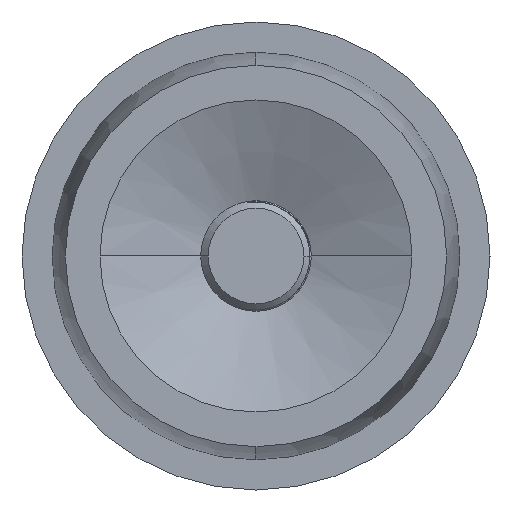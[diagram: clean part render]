
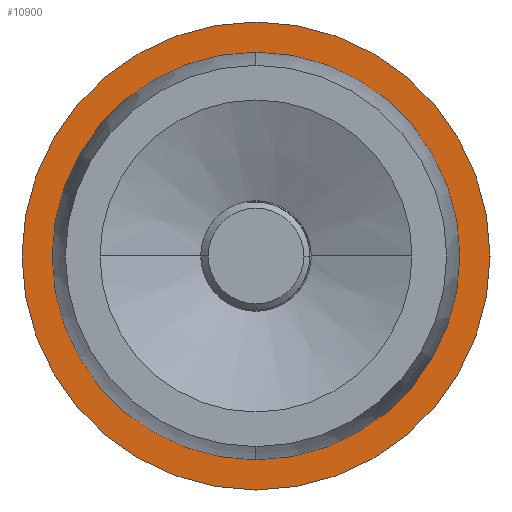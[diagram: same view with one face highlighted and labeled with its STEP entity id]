
A CAD part, left-side view. The second image highlights one B-rep face of the part: STEP entity #10900.
In plain terms, the highlighted planar face has unit normal (-1, 0, 0).
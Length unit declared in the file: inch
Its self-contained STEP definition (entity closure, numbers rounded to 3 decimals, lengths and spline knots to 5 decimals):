
#713 = CARTESIAN_POINT ( 'NONE',  ( 1.03029, 1.92417, 2.37021 ) ) ;
#794 = CIRCLE ( 'NONE', #9520, 0.49 ) ;
#871 = ORIENTED_EDGE ( 'NONE', *, *, #3297, .T. ) ;
#1087 = DIRECTION ( 'NONE',  ( -1., 0., 0. ) ) ;
#1432 = ORIENTED_EDGE ( 'NONE', *, *, #2862, .F. ) ;
#2035 = DIRECTION ( 'NONE',  ( 0., 0., 1. ) ) ;
#2439 = VERTEX_POINT ( 'NONE', #3125 ) ;
#2576 = CARTESIAN_POINT ( 'NONE',  ( 1.03029, 1.92417, 2.93271 ) ) ;
#2615 = VERTEX_POINT ( 'NONE', #2576 ) ;
#2862 = EDGE_CURVE ( 'NONE', #10783, #12720, #794, .T. ) ;
#3125 = CARTESIAN_POINT ( 'NONE',  ( 1.03029, 1.92417, 1.80771 ) ) ;
#3297 = EDGE_CURVE ( 'NONE', #2615, #2439, #14814, .T. ) ;
#4241 = DIRECTION ( 'NONE',  ( -1., 0., 0. ) ) ;
#4370 = AXIS2_PLACEMENT_3D ( 'NONE', #11975, #4241, #13307 ) ;
#4401 = DIRECTION ( 'NONE',  ( -1., 0., 0. ) ) ;
#4640 = AXIS2_PLACEMENT_3D ( 'NONE', #13870, #6056, #15176 ) ;
#5623 = CARTESIAN_POINT ( 'NONE',  ( 1.03029, 1.92417, 2.86021 ) ) ;
#6056 = DIRECTION ( 'NONE',  ( -1., 0., 0. ) ) ;
#6255 = CIRCLE ( 'NONE', #12197, 0.49 ) ;
#7077 = CARTESIAN_POINT ( 'NONE',  ( 1.03029, 1.92417, 1.88021 ) ) ;
#7954 = EDGE_LOOP ( 'NONE', ( #871, #11748 ) ) ;
#8771 = CARTESIAN_POINT ( 'NONE',  ( 1.03029, 1.92417, 2.37021 ) ) ;
#9202 = EDGE_CURVE ( 'NONE', #12720, #10783, #6255, .T. ) ;
#9254 = AXIS2_PLACEMENT_3D ( 'NONE', #713, #9730, #2035 ) ;
#9520 = AXIS2_PLACEMENT_3D ( 'NONE', #8771, #1087, #10092 ) ;
#9730 = DIRECTION ( 'NONE',  ( -1., 0., 0. ) ) ;
#10092 = DIRECTION ( 'NONE',  ( 0., 0., 1. ) ) ;
#10248 = CIRCLE ( 'NONE', #4370, 0.5625 ) ;
#10645 = EDGE_LOOP ( 'NONE', ( #14047, #1432 ) ) ;
#10783 = VERTEX_POINT ( 'NONE', #7077 ) ;
#10900 = ADVANCED_FACE ( 'NONE', ( #15629, #16341 ), #16417, .T. ) ;
#11748 = ORIENTED_EDGE ( 'NONE', *, *, #12640, .T. ) ;
#11975 = CARTESIAN_POINT ( 'NONE',  ( 1.03029, 1.92417, 2.37021 ) ) ;
#12140 = CARTESIAN_POINT ( 'NONE',  ( 1.03029, 1.92417, 2.37021 ) ) ;
#12197 = AXIS2_PLACEMENT_3D ( 'NONE', #12140, #4401, #13472 ) ;
#12640 = EDGE_CURVE ( 'NONE', #2439, #2615, #10248, .T. ) ;
#12720 = VERTEX_POINT ( 'NONE', #5623 ) ;
#13307 = DIRECTION ( 'NONE',  ( 0., 0., 1. ) ) ;
#13472 = DIRECTION ( 'NONE',  ( 0., 0., 1. ) ) ;
#13870 = CARTESIAN_POINT ( 'NONE',  ( 1.03029, 1.92417, 1.88021 ) ) ;
#14047 = ORIENTED_EDGE ( 'NONE', *, *, #9202, .F. ) ;
#14814 = CIRCLE ( 'NONE', #9254, 0.5625 ) ;
#15176 = DIRECTION ( 'NONE',  ( 0., 0., 1. ) ) ;
#15629 = FACE_BOUND ( 'NONE', #10645, .T. ) ;
#16341 = FACE_OUTER_BOUND ( 'NONE', #7954, .T. ) ;
#16417 = PLANE ( 'NONE',  #4640 ) ;
